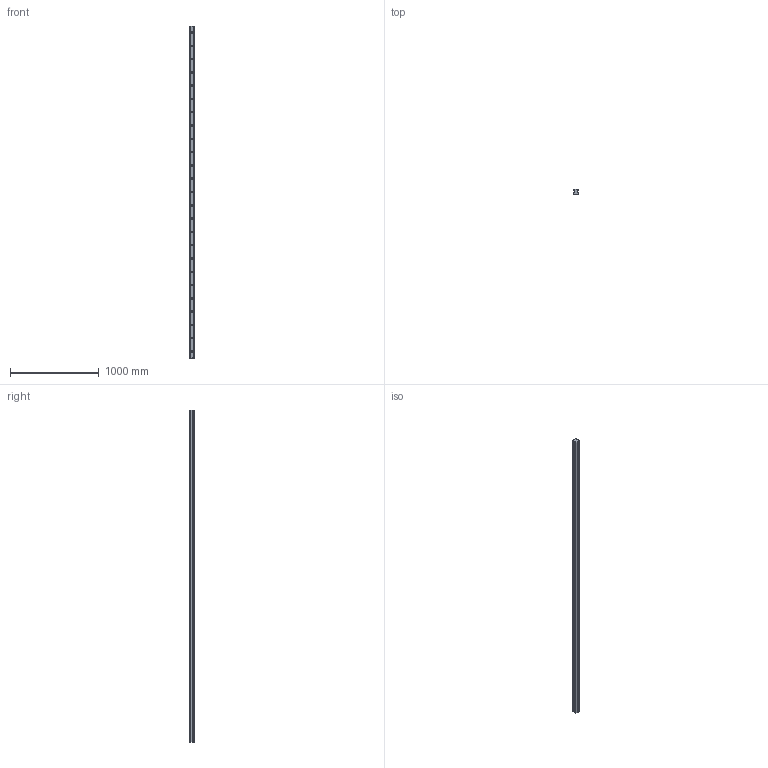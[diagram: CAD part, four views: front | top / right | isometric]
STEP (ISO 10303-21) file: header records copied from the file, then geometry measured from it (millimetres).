
FILE_DESCRIPTION((''),'2;1');
FILE_NAME('KUGELSCHIENE_CS_ASM','2021-10-14T09:57:25',('ac91sw'),(''),'CREO PARAMETRIC BY PTC INC, 2020044','CREO PARAMETRIC BY PTC INC, 2020044','');
FILE_SCHEMA(('AUTOMOTIVE_DESIGN { 1 0 10303 214 1 1 1 1 }'));
Length unit declared in the file: millimetre
Products named in the file (3): KUGELSCHIENE_CS_SKEL; KUGELSCHIENE_CS_RAIL1; KUGELSCHIENE_CS_ASM
Assembly tree (2 placements, depth 2):
  KUGELSCHIENE_CS_ASM
    KUGELSCHIENE_CS_SKEL
    KUGELSCHIENE_CS_RAIL1
Bounding box: 63 x 59.85 x 3746 mm (x, y, z)
Volume: 11013487.2 mm3; surface area: 1010968.9 mm2
Topology: 1 solids, 26 shells, 253 faces, 626 edges, 375 vertices
Faces by surface type: cylinder 104, plane 91, cone 58
Entity records: 8938 total; most frequent: DIRECTION 1346, CARTESIAN_POINT 1279, ORIENTED_EDGE 1052, EDGE_CURVE 576, AXIS2_PLACEMENT_3D 526, VERTEX_POINT 375, EDGE_LOOP 303, VECTOR 294
